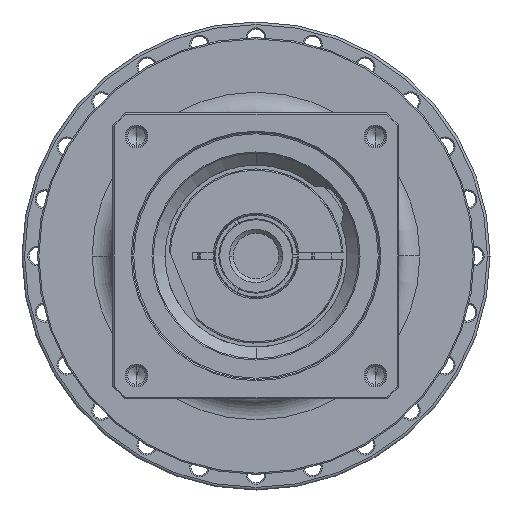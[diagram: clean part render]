
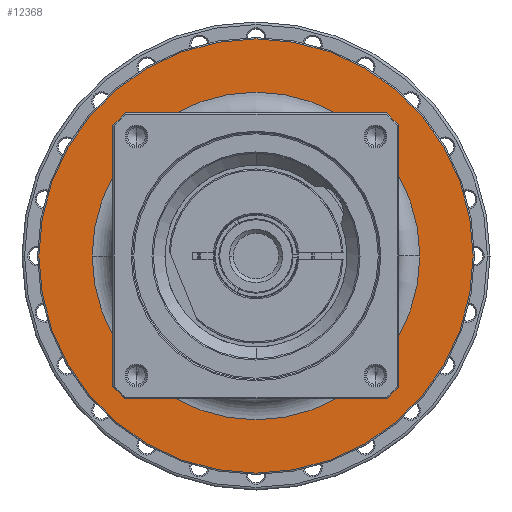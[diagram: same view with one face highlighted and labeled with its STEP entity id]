
A CAD part, left-side view. The second image highlights one B-rep face of the part: STEP entity #12368.
In plain terms, the highlighted planar face has unit normal (-1, 0, 0) as drawn and (1, 0, 0) by its records, which use the part's own axes.
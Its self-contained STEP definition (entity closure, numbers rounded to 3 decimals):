
#11847=CARTESIAN_POINT('',(-19.,0.,0.));
#11848=DIRECTION('',(-1.,0.,0.));
#11849=DIRECTION('',(0.,-1.,0.));
#11850=AXIS2_PLACEMENT_3D('',#11847,#11848,#11849);
#11852=CARTESIAN_POINT('',(-19.,0.,0.));
#11853=DIRECTION('',(-1.,0.,0.));
#11854=DIRECTION('',(0.,1.,0.));
#11855=AXIS2_PLACEMENT_3D('',#11852,#11853,#11854);
#11857=CARTESIAN_POINT('',(-19.,0.,0.));
#11858=DIRECTION('',(-1.,0.,0.));
#11859=DIRECTION('',(0.,-1.,0.));
#11860=AXIS2_PLACEMENT_3D('',#11857,#11858,#11859);
#11862=CARTESIAN_POINT('',(-19.,0.,0.));
#11863=DIRECTION('',(-1.,0.,0.));
#11864=DIRECTION('',(0.,1.,0.));
#11865=AXIS2_PLACEMENT_3D('',#11862,#11863,#11864);
#11931=CARTESIAN_POINT('',(-19.,-83.5,0.));
#11932=CARTESIAN_POINT('',(-19.,83.5,0.));
#11933=VERTEX_POINT('',#11931);
#11934=VERTEX_POINT('',#11932);
#11955=CARTESIAN_POINT('',(-19.,-63.,0.));
#11956=CARTESIAN_POINT('',(-19.,63.,0.));
#11957=VERTEX_POINT('',#11955);
#11958=VERTEX_POINT('',#11956);
#12353=CARTESIAN_POINT('',(-19.,0.,0.));
#12354=DIRECTION('',(1.,0.,0.));
#12355=DIRECTION('',(0.,-1.,0.));
#12356=AXIS2_PLACEMENT_3D('',#12353,#12354,#12355);
#12357=PLANE('',#12356);
#12358=ORIENTED_EDGE('',*,*,#12294,.T.);
#12359=ORIENTED_EDGE('',*,*,#12309,.T.);
#12360=EDGE_LOOP('',(#12358,#12359));
#12361=FACE_OUTER_BOUND('',#12360,.F.);
#12363=ORIENTED_EDGE('',*,*,#12362,.F.);
#12365=ORIENTED_EDGE('',*,*,#12364,.F.);
#12366=EDGE_LOOP('',(#12363,#12365));
#12367=FACE_BOUND('',#12366,.F.);
#12368=ADVANCED_FACE('',(#12361,#12367),#12357,.T.);
#11851=CIRCLE('',#11850,63.);
#11856=CIRCLE('',#11855,63.);
#11861=CIRCLE('',#11860,83.5);
#11866=CIRCLE('',#11865,83.5);
#12294=EDGE_CURVE('',#11933,#11934,#11861,.T.);
#12309=EDGE_CURVE('',#11934,#11933,#11866,.T.);
#12362=EDGE_CURVE('',#11957,#11958,#11851,.T.);
#12364=EDGE_CURVE('',#11958,#11957,#11856,.T.);
